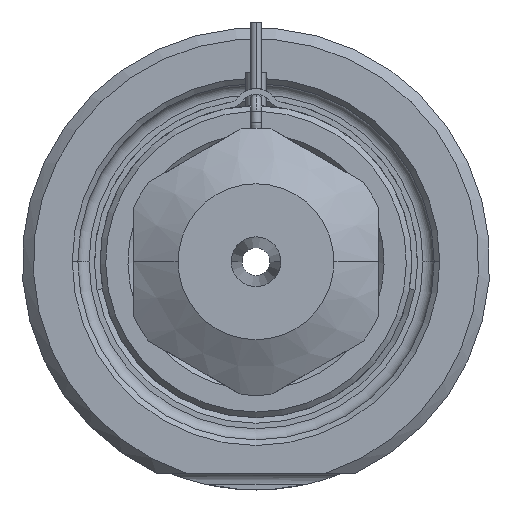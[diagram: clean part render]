
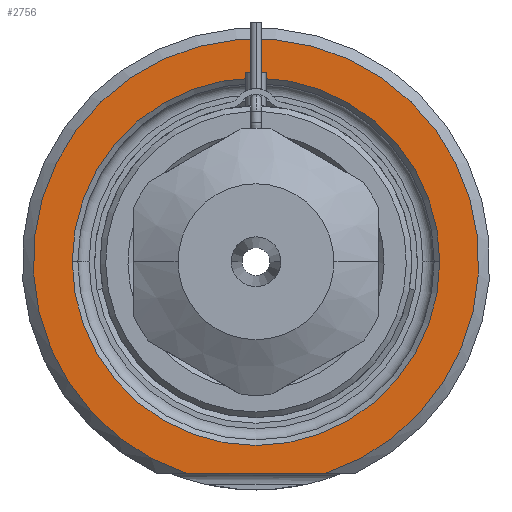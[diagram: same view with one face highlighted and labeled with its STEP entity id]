
A CAD part, front view. The second image highlights one B-rep face of the part: STEP entity #2756.
In plain terms, the highlighted planar face has unit normal (0, -1, 0).
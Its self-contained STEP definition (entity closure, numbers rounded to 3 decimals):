
#1=DIRECTION('',(1.,0.,0.));
#2=VECTOR('',#1,12.49);
#3=CARTESIAN_POINT('',(-6.245,0.,-19.));
#4=LINE('',#3,#2);
#5=CARTESIAN_POINT('',(0.,0.,0.));
#6=DIRECTION('',(0.,1.,0.));
#7=DIRECTION('',(-1.,0.,0.));
#8=AXIS2_PLACEMENT_3D('',#5,#6,#7);
#10=CARTESIAN_POINT('',(0.,0.,0.));
#11=DIRECTION('',(0.,1.,0.));
#12=DIRECTION('',(1.,0.,0.));
#13=AXIS2_PLACEMENT_3D('',#10,#11,#12);
#119=CARTESIAN_POINT('',(0.,0.,0.));
#120=DIRECTION('',(0.,-1.,0.));
#121=DIRECTION('',(0.312,0.,-0.95));
#122=AXIS2_PLACEMENT_3D('',#119,#120,#121);
#2299=CARTESIAN_POINT('',(-16.5,0.,0.));
#2300=CARTESIAN_POINT('',(16.5,0.,0.));
#2301=VERTEX_POINT('',#2299);
#2302=VERTEX_POINT('',#2300);
#2339=CARTESIAN_POINT('',(-6.245,0.,-19.));
#2340=CARTESIAN_POINT('',(6.245,0.,-19.));
#2341=VERTEX_POINT('',#2339);
#2342=VERTEX_POINT('',#2340);
#2739=CARTESIAN_POINT('',(0.,0.,0.));
#2740=DIRECTION('',(0.,-1.,0.));
#2741=DIRECTION('',(1.,0.,0.));
#2742=AXIS2_PLACEMENT_3D('',#2739,#2740,#2741);
#2743=PLANE('',#2742);
#2745=ORIENTED_EDGE('',*,*,#2744,.F.);
#2747=ORIENTED_EDGE('',*,*,#2746,.F.);
#2748=EDGE_LOOP('',(#2745,#2747));
#2749=FACE_OUTER_BOUND('',#2748,.F.);
#2751=ORIENTED_EDGE('',*,*,#2750,.F.);
#2753=ORIENTED_EDGE('',*,*,#2752,.F.);
#2754=EDGE_LOOP('',(#2751,#2753));
#2755=FACE_BOUND('',#2754,.F.);
#2756=ADVANCED_FACE('',(#2749,#2755),#2743,.T.);
#9=CIRCLE('',#8,16.5);
#14=CIRCLE('',#13,16.5);
#123=CIRCLE('',#122,20.);
#2744=EDGE_CURVE('',#2341,#2342,#4,.T.);
#2746=EDGE_CURVE('',#2342,#2341,#123,.T.);
#2750=EDGE_CURVE('',#2301,#2302,#9,.T.);
#2752=EDGE_CURVE('',#2302,#2301,#14,.T.);
